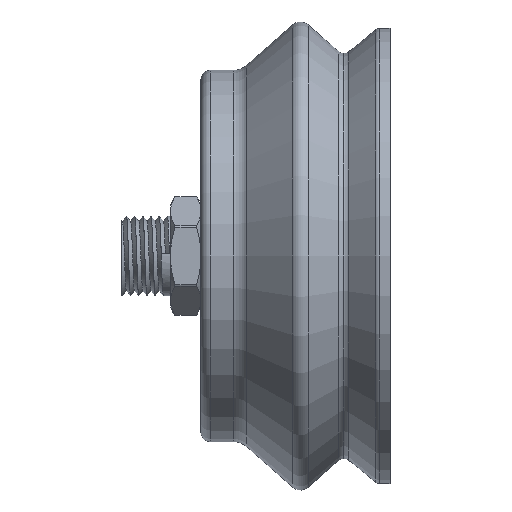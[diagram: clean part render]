
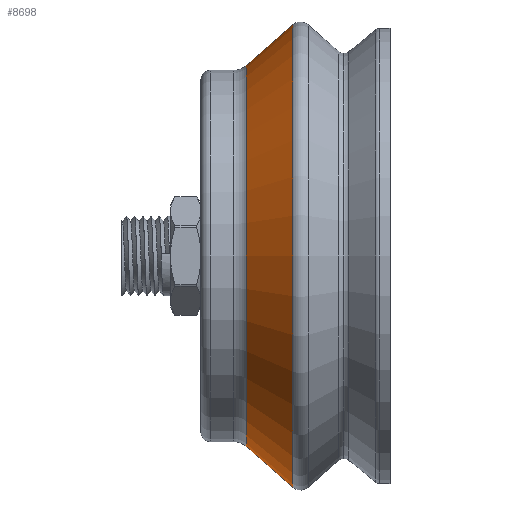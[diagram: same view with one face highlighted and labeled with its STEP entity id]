
A CAD part, left-side view. The second image highlights one B-rep face of the part: STEP entity #8698.
In plain terms, the highlighted conical face has half-angle 41.202 degrees and reference radius 31.372 mm.
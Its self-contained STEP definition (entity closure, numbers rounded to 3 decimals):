
#521 = CIRCLE ( 'NONE', #2695, 38.085 ) ;
#548 = ORIENTED_EDGE ( 'NONE', *, *, #6738, .F. ) ;
#633 = VERTEX_POINT ( 'NONE', #4152 ) ;
#1191 = DIRECTION ( 'NONE',  ( 0., 1., 0. ) ) ;
#1394 = ORIENTED_EDGE ( 'NONE', *, *, #2932, .T. ) ;
#1489 = DIRECTION ( 'NONE',  ( 0., -0.752, -0.659 ) ) ;
#1493 = DIRECTION ( 'NONE',  ( 0., 1., 0. ) ) ;
#1659 = LINE ( 'NONE', #5268, #7844 ) ;
#1725 = ORIENTED_EDGE ( 'NONE', *, *, #7288, .F. ) ;
#1819 = VERTEX_POINT ( 'NONE', #7249 ) ;
#1946 = VERTEX_POINT ( 'NONE', #3108 ) ;
#2340 = CARTESIAN_POINT ( 'NONE',  ( 0., -7.799, 0. ) ) ;
#2400 = FACE_OUTER_BOUND ( 'NONE', #3571, .T. ) ;
#2546 = AXIS2_PLACEMENT_3D ( 'NONE', #5704, #1493, #8550 ) ;
#2695 = AXIS2_PLACEMENT_3D ( 'NONE', #9107, #1191, #4767 ) ;
#2842 = VERTEX_POINT ( 'NONE', #4557 ) ;
#2932 = EDGE_CURVE ( 'NONE', #1946, #633, #9057, .T. ) ;
#3108 = CARTESIAN_POINT ( 'NONE',  ( 0., -7.799, -31.372 ) ) ;
#3111 = EDGE_CURVE ( 'NONE', #633, #1819, #521, .T. ) ;
#3273 = CONICAL_SURFACE ( 'NONE', #7060, 31.372, 0.719 ) ;
#3571 = EDGE_LOOP ( 'NONE', ( #548, #1725, #1394, #6583 ) ) ;
#3714 = DIRECTION ( 'NONE',  ( 0., -1., 0. ) ) ;
#3797 = DIRECTION ( 'NONE',  ( 0., 0., -1. ) ) ;
#4152 = CARTESIAN_POINT ( 'NONE',  ( 0., -15.466, -38.085 ) ) ;
#4557 = CARTESIAN_POINT ( 'NONE',  ( 0., -7.799, 31.372 ) ) ;
#4767 = DIRECTION ( 'NONE',  ( 0., 0., 1. ) ) ;
#5268 = CARTESIAN_POINT ( 'NONE',  ( 0., -7.799, 31.372 ) ) ;
#5704 = CARTESIAN_POINT ( 'NONE',  ( 0., -7.799, 0. ) ) ;
#6583 = ORIENTED_EDGE ( 'NONE', *, *, #3111, .T. ) ;
#6641 = DIRECTION ( 'NONE',  ( 0., -0.752, 0.659 ) ) ;
#6738 = EDGE_CURVE ( 'NONE', #2842, #1819, #1659, .T. ) ;
#7060 = AXIS2_PLACEMENT_3D ( 'NONE', #2340, #3714, #3797 ) ;
#7249 = CARTESIAN_POINT ( 'NONE',  ( 0., -15.466, 38.085 ) ) ;
#7288 = EDGE_CURVE ( 'NONE', #1946, #2842, #7954, .T. ) ;
#7792 = CARTESIAN_POINT ( 'NONE',  ( 0., -7.799, -31.372 ) ) ;
#7844 = VECTOR ( 'NONE', #6641, 1000. ) ;
#7954 = CIRCLE ( 'NONE', #2546, 31.372 ) ;
#8550 = DIRECTION ( 'NONE',  ( 0., 0., 1. ) ) ;
#8698 = ADVANCED_FACE ( 'NONE', ( #2400 ), #3273, .T. ) ;
#9057 = LINE ( 'NONE', #7792, #9162 ) ;
#9107 = CARTESIAN_POINT ( 'NONE',  ( 0., -15.466, 0. ) ) ;
#9162 = VECTOR ( 'NONE', #1489, 1000. ) ;
